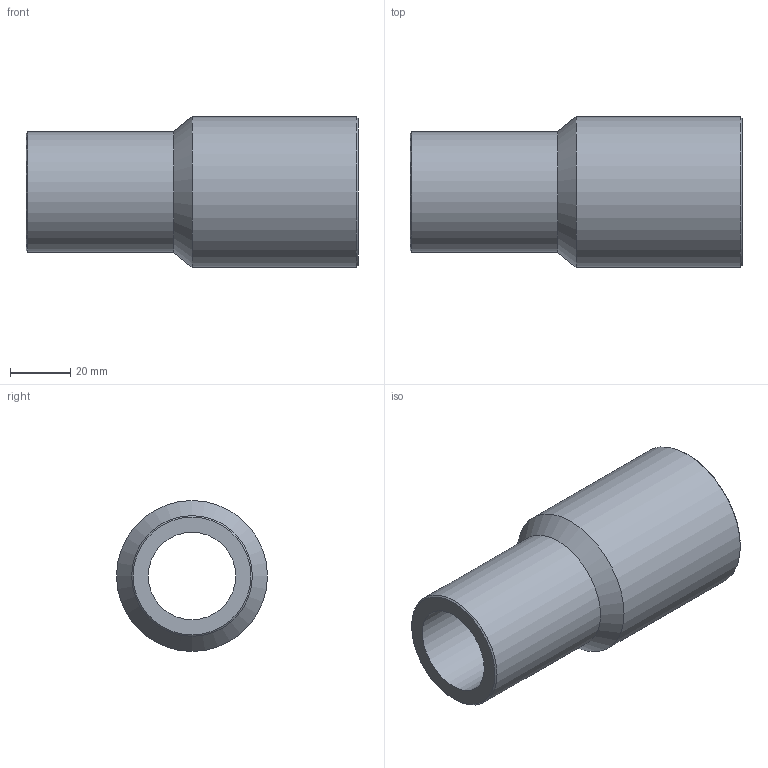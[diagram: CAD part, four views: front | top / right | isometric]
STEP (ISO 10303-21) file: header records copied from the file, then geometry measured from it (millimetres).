
FILE_DESCRIPTION(/* description */ ('Unknown'),/* implementation_level */ '2;1');
FILE_NAME(/* name */ 'RP050040H',/* time_stamp */ '2021-09-16T11:19:24+02:00',/* author */ ('Unknown'),/* organization */ ('Unknown'),/* preprocessor_version */ 'ST-DEVELOPER v16.7',/* originating_system */ 'Solid Edge',/* authorisation */ 'Unknown');
FILE_SCHEMA (('AUTOMOTIVE_DESIGN {1 0 10303 214 3 1 1}'));
Length unit declared in the file: millimetre
Products named in the file (1): RP050040H
Bounding box: 110 x 50 x 50 mm (x, y, z)
Volume: 86041.9 mm3; surface area: 28714.3 mm2
Topology: 1 solids, 1 shells, 10 faces, 19 edges, 11 vertices
Faces by surface type: cylinder 4, cone 4, plane 2
Full cylindrical faces by diameter (mm): 29 x1, 36.2 x1, 40 x1, 50 x1
Entity records: 238 total; most frequent: DIRECTION 42, CARTESIAN_POINT 31, AXIS2_PLACEMENT_3D 21, ORIENTED_EDGE 20, EDGE_LOOP 20, FACE_BOUND 20, EDGE_CURVE 10, VERTEX_POINT 10
